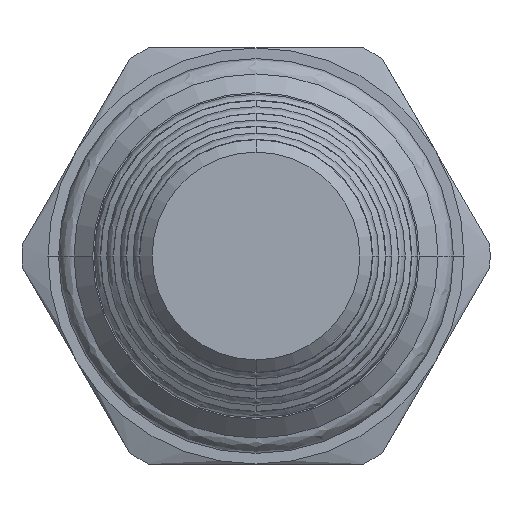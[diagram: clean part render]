
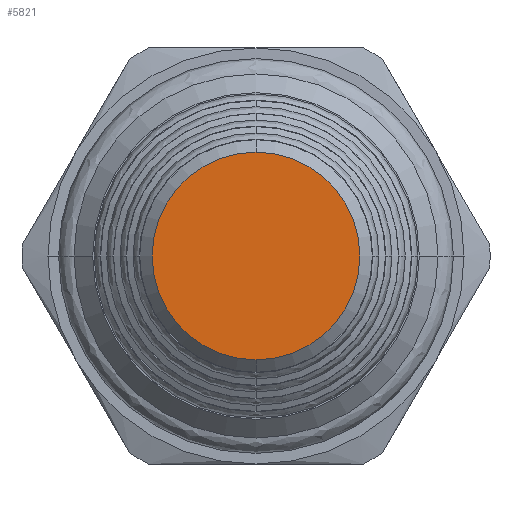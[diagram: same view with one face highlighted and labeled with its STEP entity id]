
A CAD part, front view. The second image highlights one B-rep face of the part: STEP entity #5821.
In plain terms, the highlighted planar face has unit normal (0, -1, 0).
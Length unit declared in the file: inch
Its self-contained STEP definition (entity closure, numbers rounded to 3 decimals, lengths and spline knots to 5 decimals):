
#1868=CARTESIAN_POINT('',(0.,-3.06273,0.));
#1869=DIRECTION('',(0.,-1.,0.));
#1870=DIRECTION('',(0.,0.,1.));
#1871=AXIS2_PLACEMENT_3D('',#1868,#1869,#1870);
#1886=CARTESIAN_POINT('',(0.,-3.06273,0.));
#1887=DIRECTION('',(0.,1.,0.));
#1888=DIRECTION('',(0.,0.,1.));
#1889=AXIS2_PLACEMENT_3D('',#1886,#1887,#1888);
#2821=CARTESIAN_POINT('',(0.,-3.06273,0.2495));
#2822=CARTESIAN_POINT('',(0.,-3.06273,-0.2495));
#2823=VERTEX_POINT('',#2821);
#2824=VERTEX_POINT('',#2822);
#5811=CARTESIAN_POINT('',(0.,-3.06273,0.));
#5812=DIRECTION('',(0.,1.,0.));
#5813=DIRECTION('',(0.,0.,-1.));
#5814=AXIS2_PLACEMENT_3D('',#5811,#5812,#5813);
#5815=PLANE('',#5814);
#5816=ORIENTED_EDGE('',*,*,#5801,.F.);
#5818=ORIENTED_EDGE('',*,*,#5817,.T.);
#5819=EDGE_LOOP('',(#5816,#5818));
#5820=FACE_OUTER_BOUND('',#5819,.F.);
#5821=ADVANCED_FACE('',(#5820),#5815,.F.);
#1872=CIRCLE('',#1871,0.2495);
#1890=CIRCLE('',#1889,0.2495);
#5801=EDGE_CURVE('',#2823,#2824,#1872,.T.);
#5817=EDGE_CURVE('',#2823,#2824,#1890,.T.);
